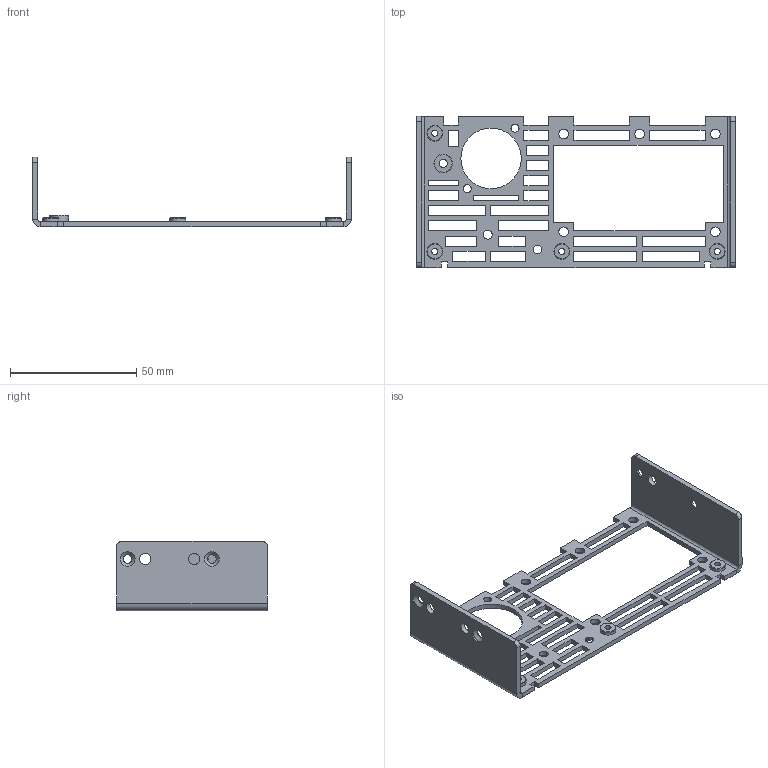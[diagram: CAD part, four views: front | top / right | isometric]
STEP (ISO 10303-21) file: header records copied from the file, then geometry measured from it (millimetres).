
FILE_DESCRIPTION(/* description */ ('','CAx-IF Rec.Pracs.---Representation and Presentation of Product Manufacturing Information (PMI)---4.0---2014-10-13'),/* implementation_level */ '2;1');
FILE_NAME(/* name */ 'G:\Alle CAD Daten\CAMTEC_2021_Pack and Go\PSU CPS-i3000 - CPS-i2000\2021055003.stp',/* time_stamp */ '2020-09-15T19:05:40+02:00',/* author */ ('rryba'),/* organization */ (''),/* preprocessor_version */ 'ST-DEVELOPER v18.1',/* originating_system */ 'Autodesk Inventor 2021',/* authorisation */ '');
FILE_SCHEMA (('AP242_MANAGED_MODEL_BASED_3D_ENGINEERING_MIM_LF { 1 0 10303 442 1 1 4 }'));
Length unit declared in the file: millimetre
Products named in the file (1): 2021055003
Bounding box: 126.4 x 59.9 x 27.5 mm (x, y, z)
Volume: 12115.5 mm3; surface area: 16528.1 mm2
Topology: 6 solids, 6 shells, 218 faces, 753 edges, 711 vertices
Faces by surface type: plane 158, cylinder 50, cone 5, torus 5
Full cylindrical faces by diameter (mm): 2.459 x4, 3.2 x2, 3.242 x1, 3.4 x5, 3.5 x1, 3.8 x5, 4.2 x8, 4.5 x3, 5.2 x3, 5.9 x4, 6.3 x4, 7.4 x1, 24 x1
Entity records: 7767 total; most frequent: CARTESIAN_POINT 1505, DIRECTION 1169, ORIENTED_EDGE 1150, EDGE_CURVE 575, LINE 459, VECTOR 459, VERTEX_POINT 375, AXIS2_PLACEMENT_3D 355
